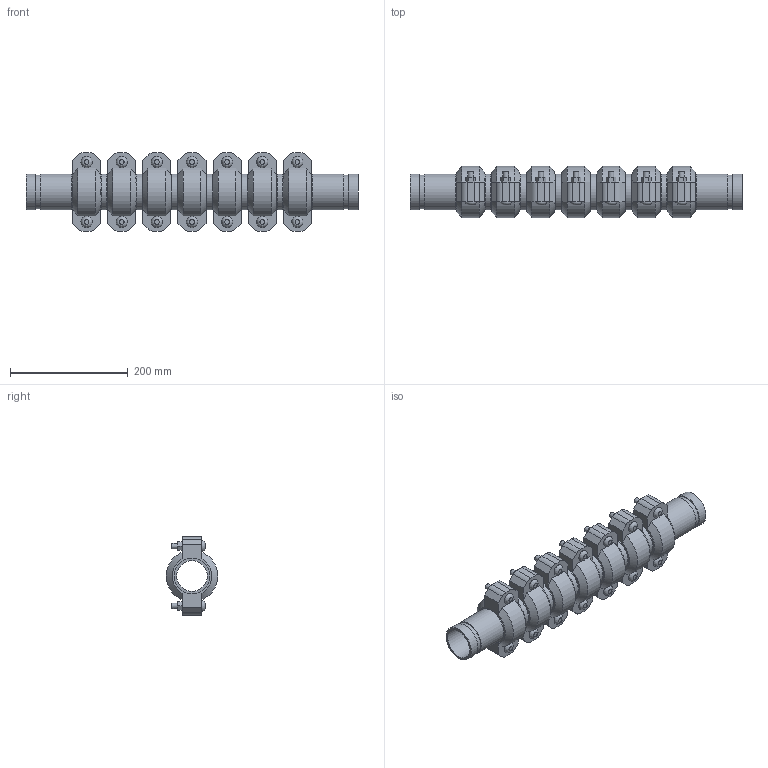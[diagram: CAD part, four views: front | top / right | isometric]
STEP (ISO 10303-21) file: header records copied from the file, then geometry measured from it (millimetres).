
FILE_DESCRIPTION(/* description */ ('VIC SS EXPANSION JOINT 7 COUPLINGS NEUTRAL STYLE 155P (OGS) (POTABLE WATER) ','CAx-IF Rec.Pracs.---Representation and Presentation of Product Manufacturing Information (PMI)---4.0---2014-10-13'),/* implementation_level */ '2;1');
FILE_NAME(/* name */ 'C:\Users\kkamble\AppData\Roaming\Autodesk\ApplicationPlugins\Victaulic.Temp\A807\Victaulic_SS_Expansion Joint_Neutral_7 Couplings_Style 155P (OGS)-Potable Water_7 Coup_Neut_2 (50).stp',/* time_stamp */ '2021-07-16T16:37:09+05:00',/* author */ ('kkamble'),/* organization */ ('Victaulic'),/* preprocessor_version */ 'ST-DEVELOPER v17.2',/* originating_system */ 'Autodesk Inventor 2019',/* authorisation */ '');
FILE_SCHEMA (('AP242_MANAGED_MODEL_BASED_3D_ENGINEERING_MIM_LF { 1 0 10303 442 1 1 4 }'));
Length unit declared in the file: inch
Products named in the file (4): 155P-02.0; Nipple-02.0; Nipple-02.0_1; 075-02.0
Assembly tree (15 placements, depth 2):
  155P-02.0
    Nipple-02.0  x2
    Nipple-02.0_1  x6
    075-02.0  x7
Bounding box: 562.86 x 87.12 x 132.59 mm (x, y, z)
Volume: 1747316.9 mm3; surface area: 491596.9 mm2
Topology: 15 solids, 29 shells, 495 faces, 1171 edges, 822 vertices
Faces by surface type: plane 300, cylinder 153, cone 28, bspline 14
Full cylindrical faces by diameter (mm): 9.525 x28, 11.43 x14, 52.502 x8, 53.975 x7, 57.15 x16, 60.325 x38
Entity records: 2833 total; most frequent: CARTESIAN_POINT 499, DIRECTION 473, ORIENTED_EDGE 386, EDGE_CURVE 193, AXIS2_PLACEMENT_3D 190, VERTEX_POINT 138, EDGE_LOOP 107, LINE 93
